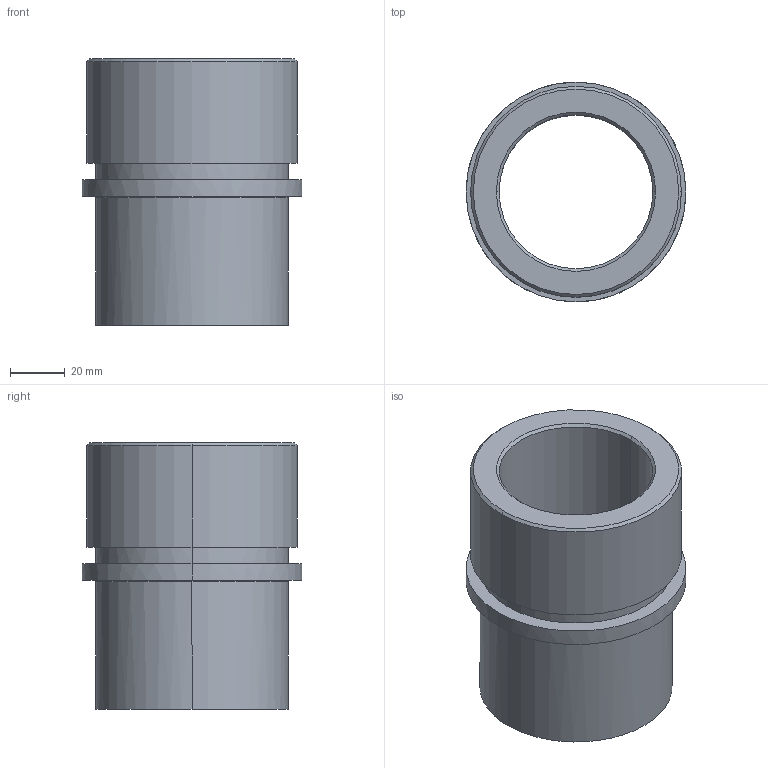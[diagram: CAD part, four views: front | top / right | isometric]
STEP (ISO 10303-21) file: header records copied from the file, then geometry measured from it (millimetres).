
FILE_DESCRIPTION(('CATIA V5 STEP Exchange'),'2;1');
FILE_NAME('C:\Users\Utente\Desktop\IO LAVORO\3D X SITO CF\X SITO\735\735-48.stp','2021-01-16T19:19:58+00:00',('none'),('none'),'CATIA Version 5 Release 20 GA (IN-10)','CATIA V5 STEP AP203','none');
FILE_SCHEMA(('CONFIG_CONTROL_DESIGN'));
Length unit declared in the file: millimetre
Products named in the file (1): 735-48
Assembly tree (1 placements, depth 2):
  735-48
    #58
Bounding box: 80 x 80 x 97 mm (x, y, z)
Volume: 170765.4 mm3; surface area: 46100.3 mm2
Topology: 1 solids, 1 shells, 25 faces, 50 edges, 30 vertices
Faces by surface type: cylinder 10, cone 6, plane 5, torus 4
Entity records: 851 total; most frequent: CARTESIAN_POINT 282, ORIENTED_EDGE 100, DIRECTION 96, AXIS2_PLACEMENT_3D 53, EDGE_CURVE 50, EDGE_LOOP 30, VERTEX_POINT 30, CIRCLE 26
